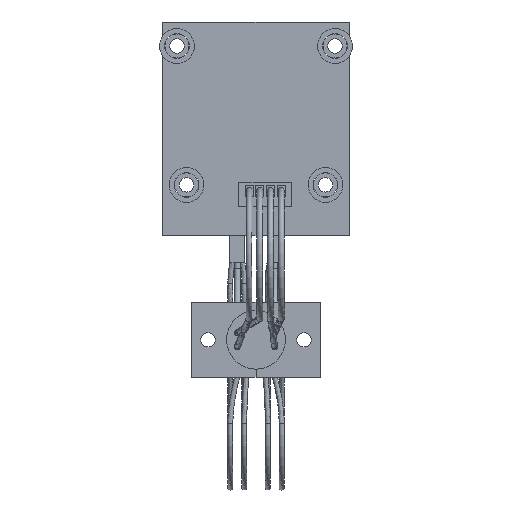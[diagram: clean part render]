
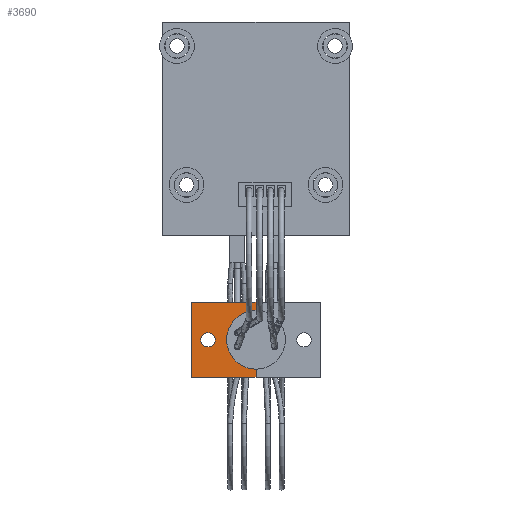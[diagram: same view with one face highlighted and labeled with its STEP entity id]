
A CAD part, top view. The second image highlights one B-rep face of the part: STEP entity #3690.
In plain terms, the highlighted planar face has unit normal (0, 0, 1).
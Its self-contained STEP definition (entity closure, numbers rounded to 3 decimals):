
#3503 = VERTEX_POINT('',#3504);
#3504 = CARTESIAN_POINT('',(-12.,-49.,3.2));
#3511 = PLANE('',#3512);
#3512 = AXIS2_PLACEMENT_3D('',#3513,#3514,#3515);
#3513 = CARTESIAN_POINT('',(-12.,-49.,-2.8));
#3514 = DIRECTION('',(1.,0.,0.));
#3515 = DIRECTION('',(0.,0.,1.));
#3523 = PLANE('',#3524);
#3524 = AXIS2_PLACEMENT_3D('',#3525,#3526,#3527);
#3525 = CARTESIAN_POINT('',(-12.,-49.,-2.8));
#3526 = DIRECTION('',(0.,1.,0.));
#3527 = DIRECTION('',(0.,0.,1.));
#3564 = VERTEX_POINT('',#3565);
#3565 = CARTESIAN_POINT('',(-12.,-35.,3.2));
#3579 = PLANE('',#3580);
#3580 = AXIS2_PLACEMENT_3D('',#3581,#3582,#3583);
#3581 = CARTESIAN_POINT('',(-12.,-35.,-2.8));
#3582 = DIRECTION('',(0.,1.,0.));
#3583 = DIRECTION('',(0.,0.,1.));
#3591 = EDGE_CURVE('',#3503,#3564,#3592,.T.);
#3592 = SURFACE_CURVE('',#3593,(#3597,#3604),.PCURVE_S1.);
#3593 = LINE('',#3594,#3595);
#3594 = CARTESIAN_POINT('',(-12.,-49.,3.2));
#3595 = VECTOR('',#3596,1.);
#3596 = DIRECTION('',(0.,1.,0.));
#3597 = PCURVE('',#3511,#3598);
#3598 = DEFINITIONAL_REPRESENTATION('',(#3599),#3603);
#3599 = LINE('',#3600,#3601);
#3600 = CARTESIAN_POINT('',(6.,0.));
#3601 = VECTOR('',#3602,1.);
#3602 = DIRECTION('',(0.,-1.));
#3603 = ( GEOMETRIC_REPRESENTATION_CONTEXT(2) 
PARAMETRIC_REPRESENTATION_CONTEXT() REPRESENTATION_CONTEXT('2D SPACE',''
  ) );
#3604 = PCURVE('',#3605,#3610);
#3605 = PLANE('',#3606);
#3606 = AXIS2_PLACEMENT_3D('',#3607,#3608,#3609);
#3607 = CARTESIAN_POINT('',(-12.,-49.,3.2));
#3608 = DIRECTION('',(0.,0.,1.));
#3609 = DIRECTION('',(1.,0.,0.));
#3610 = DEFINITIONAL_REPRESENTATION('',(#3611),#3615);
#3611 = LINE('',#3612,#3613);
#3612 = CARTESIAN_POINT('',(0.,0.));
#3613 = VECTOR('',#3614,1.);
#3614 = DIRECTION('',(0.,1.));
#3615 = ( GEOMETRIC_REPRESENTATION_CONTEXT(2) 
PARAMETRIC_REPRESENTATION_CONTEXT() REPRESENTATION_CONTEXT('2D SPACE',''
  ) );
#3644 = EDGE_CURVE('',#3503,#3645,#3647,.T.);
#3645 = VERTEX_POINT('',#3646);
#3646 = CARTESIAN_POINT('',(0.,-49.,3.2));
#3647 = SURFACE_CURVE('',#3648,(#3652,#3659),.PCURVE_S1.);
#3648 = LINE('',#3649,#3650);
#3649 = CARTESIAN_POINT('',(-12.,-49.,3.2));
#3650 = VECTOR('',#3651,1.);
#3651 = DIRECTION('',(1.,0.,0.));
#3652 = PCURVE('',#3523,#3653);
#3653 = DEFINITIONAL_REPRESENTATION('',(#3654),#3658);
#3654 = LINE('',#3655,#3656);
#3655 = CARTESIAN_POINT('',(6.,0.));
#3656 = VECTOR('',#3657,1.);
#3657 = DIRECTION('',(0.,1.));
#3658 = ( GEOMETRIC_REPRESENTATION_CONTEXT(2) 
PARAMETRIC_REPRESENTATION_CONTEXT() REPRESENTATION_CONTEXT('2D SPACE',''
  ) );
#3659 = PCURVE('',#3605,#3660);
#3660 = DEFINITIONAL_REPRESENTATION('',(#3661),#3665);
#3661 = LINE('',#3662,#3663);
#3662 = CARTESIAN_POINT('',(0.,0.));
#3663 = VECTOR('',#3664,1.);
#3664 = DIRECTION('',(1.,0.));
#3665 = ( GEOMETRIC_REPRESENTATION_CONTEXT(2) 
PARAMETRIC_REPRESENTATION_CONTEXT() REPRESENTATION_CONTEXT('2D SPACE',''
  ) );
#3680 = PLANE('',#3681);
#3681 = AXIS2_PLACEMENT_3D('',#3682,#3683,#3684);
#3682 = CARTESIAN_POINT('',(0.,-50.,-3.8));
#3683 = DIRECTION('',(1.,0.,0.));
#3684 = DIRECTION('',(0.,0.,1.));
#3690 = ADVANCED_FACE('',(#3691,#3796),#3605,.T.);
#3691 = FACE_BOUND('',#3692,.T.);
#3692 = EDGE_LOOP('',(#3693,#3716,#3717,#3718,#3739,#3772));
#3693 = ORIENTED_EDGE('',*,*,#3694,.F.);
#3694 = EDGE_CURVE('',#3564,#3695,#3697,.T.);
#3695 = VERTEX_POINT('',#3696);
#3696 = CARTESIAN_POINT('',(0.,-35.,3.2));
#3697 = SURFACE_CURVE('',#3698,(#3702,#3709),.PCURVE_S1.);
#3698 = LINE('',#3699,#3700);
#3699 = CARTESIAN_POINT('',(-12.,-35.,3.2));
#3700 = VECTOR('',#3701,1.);
#3701 = DIRECTION('',(1.,0.,0.));
#3702 = PCURVE('',#3605,#3703);
#3703 = DEFINITIONAL_REPRESENTATION('',(#3704),#3708);
#3704 = LINE('',#3705,#3706);
#3705 = CARTESIAN_POINT('',(0.,14.));
#3706 = VECTOR('',#3707,1.);
#3707 = DIRECTION('',(1.,0.));
#3708 = ( GEOMETRIC_REPRESENTATION_CONTEXT(2) 
PARAMETRIC_REPRESENTATION_CONTEXT() REPRESENTATION_CONTEXT('2D SPACE',''
  ) );
#3709 = PCURVE('',#3579,#3710);
#3710 = DEFINITIONAL_REPRESENTATION('',(#3711),#3715);
#3711 = LINE('',#3712,#3713);
#3712 = CARTESIAN_POINT('',(6.,0.));
#3713 = VECTOR('',#3714,1.);
#3714 = DIRECTION('',(0.,1.));
#3715 = ( GEOMETRIC_REPRESENTATION_CONTEXT(2) 
PARAMETRIC_REPRESENTATION_CONTEXT() REPRESENTATION_CONTEXT('2D SPACE',''
  ) );
#3716 = ORIENTED_EDGE('',*,*,#3591,.F.);
#3717 = ORIENTED_EDGE('',*,*,#3644,.T.);
#3718 = ORIENTED_EDGE('',*,*,#3719,.T.);
#3719 = EDGE_CURVE('',#3645,#3720,#3722,.T.);
#3720 = VERTEX_POINT('',#3721);
#3721 = CARTESIAN_POINT('',(0.,-47.5,3.2));
#3722 = SURFACE_CURVE('',#3723,(#3727,#3733),.PCURVE_S1.);
#3723 = LINE('',#3724,#3725);
#3724 = CARTESIAN_POINT('',(0.,-49.5,3.2));
#3725 = VECTOR('',#3726,1.);
#3726 = DIRECTION('',(0.,1.,0.));
#3727 = PCURVE('',#3605,#3728);
#3728 = DEFINITIONAL_REPRESENTATION('',(#3729),#3732);
#3729 = B_SPLINE_CURVE_WITH_KNOTS('',1,(#3730,#3731),.UNSPECIFIED.,.F.,
  .F.,(2,2),(0.5,14.5),.PIECEWISE_BEZIER_KNOTS.);
#3730 = CARTESIAN_POINT('',(12.,0.));
#3731 = CARTESIAN_POINT('',(12.,14.));
#3732 = ( GEOMETRIC_REPRESENTATION_CONTEXT(2) 
PARAMETRIC_REPRESENTATION_CONTEXT() REPRESENTATION_CONTEXT('2D SPACE',''
  ) );
#3733 = PCURVE('',#3680,#3734);
#3734 = DEFINITIONAL_REPRESENTATION('',(#3735),#3738);
#3735 = B_SPLINE_CURVE_WITH_KNOTS('',1,(#3736,#3737),.UNSPECIFIED.,.F.,
  .F.,(2,2),(0.5,14.5),.PIECEWISE_BEZIER_KNOTS.);
#3736 = CARTESIAN_POINT('',(7.,-1.));
#3737 = CARTESIAN_POINT('',(7.,-15.));
#3738 = ( GEOMETRIC_REPRESENTATION_CONTEXT(2) 
PARAMETRIC_REPRESENTATION_CONTEXT() REPRESENTATION_CONTEXT('2D SPACE',''
  ) );
#3739 = ORIENTED_EDGE('',*,*,#3740,.T.);
#3740 = EDGE_CURVE('',#3720,#3741,#3743,.T.);
#3741 = VERTEX_POINT('',#3742);
#3742 = CARTESIAN_POINT('',(0.,-36.5,3.2));
#3743 = SURFACE_CURVE('',#3744,(#3749,#3760),.PCURVE_S1.);
#3744 = CIRCLE('',#3745,5.5);
#3745 = AXIS2_PLACEMENT_3D('',#3746,#3747,#3748);
#3746 = CARTESIAN_POINT('',(0.,-42.,3.2));
#3747 = DIRECTION('',(0.,0.,-1.));
#3748 = DIRECTION('',(1.,0.,0.));
#3749 = PCURVE('',#3605,#3750);
#3750 = DEFINITIONAL_REPRESENTATION('',(#3751),#3759);
#3751 = ( BOUNDED_CURVE() B_SPLINE_CURVE(2,(#3752,#3753,#3754,#3755,
#3756,#3757,#3758),.UNSPECIFIED.,.T.,.F.) B_SPLINE_CURVE_WITH_KNOTS((1,2
    ,2,2,2,1),(-2.094,0.,2.094,4.189,
6.283,8.378),.UNSPECIFIED.) CURVE() 
GEOMETRIC_REPRESENTATION_ITEM() RATIONAL_B_SPLINE_CURVE((1.,0.5,1.,0.5,
1.,0.5,1.)) REPRESENTATION_ITEM('') );
#3752 = CARTESIAN_POINT('',(17.5,7.));
#3753 = CARTESIAN_POINT('',(17.5,-2.526));
#3754 = CARTESIAN_POINT('',(9.25,2.237));
#3755 = CARTESIAN_POINT('',(1.,7.));
#3756 = CARTESIAN_POINT('',(9.25,11.763));
#3757 = CARTESIAN_POINT('',(17.5,16.526));
#3758 = CARTESIAN_POINT('',(17.5,7.));
#3759 = ( GEOMETRIC_REPRESENTATION_CONTEXT(2) 
PARAMETRIC_REPRESENTATION_CONTEXT() REPRESENTATION_CONTEXT('2D SPACE',''
  ) );
#3760 = PCURVE('',#3761,#3766);
#3761 = CYLINDRICAL_SURFACE('',#3762,5.5);
#3762 = AXIS2_PLACEMENT_3D('',#3763,#3764,#3765);
#3763 = CARTESIAN_POINT('',(0.,-42.,-2.9));
#3764 = DIRECTION('',(-0.,-0.,-1.));
#3765 = DIRECTION('',(1.,0.,0.));
#3766 = DEFINITIONAL_REPRESENTATION('',(#3767),#3771);
#3767 = LINE('',#3768,#3769);
#3768 = CARTESIAN_POINT('',(-6.283,-6.1));
#3769 = VECTOR('',#3770,1.);
#3770 = DIRECTION('',(1.,-0.));
#3771 = ( GEOMETRIC_REPRESENTATION_CONTEXT(2) 
PARAMETRIC_REPRESENTATION_CONTEXT() REPRESENTATION_CONTEXT('2D SPACE',''
  ) );
#3772 = ORIENTED_EDGE('',*,*,#3773,.T.);
#3773 = EDGE_CURVE('',#3741,#3695,#3774,.T.);
#3774 = SURFACE_CURVE('',#3775,(#3779,#3785),.PCURVE_S1.);
#3775 = LINE('',#3776,#3777);
#3776 = CARTESIAN_POINT('',(0.,-49.5,3.2));
#3777 = VECTOR('',#3778,1.);
#3778 = DIRECTION('',(0.,1.,0.));
#3779 = PCURVE('',#3605,#3780);
#3780 = DEFINITIONAL_REPRESENTATION('',(#3781),#3784);
#3781 = B_SPLINE_CURVE_WITH_KNOTS('',1,(#3782,#3783),.UNSPECIFIED.,.F.,
  .F.,(2,2),(0.5,14.5),.PIECEWISE_BEZIER_KNOTS.);
#3782 = CARTESIAN_POINT('',(12.,0.));
#3783 = CARTESIAN_POINT('',(12.,14.));
#3784 = ( GEOMETRIC_REPRESENTATION_CONTEXT(2) 
PARAMETRIC_REPRESENTATION_CONTEXT() REPRESENTATION_CONTEXT('2D SPACE',''
  ) );
#3785 = PCURVE('',#3786,#3791);
#3786 = PLANE('',#3787);
#3787 = AXIS2_PLACEMENT_3D('',#3788,#3789,#3790);
#3788 = CARTESIAN_POINT('',(0.,-50.,-3.8));
#3789 = DIRECTION('',(1.,0.,0.));
#3790 = DIRECTION('',(0.,0.,1.));
#3791 = DEFINITIONAL_REPRESENTATION('',(#3792),#3795);
#3792 = B_SPLINE_CURVE_WITH_KNOTS('',1,(#3793,#3794),.UNSPECIFIED.,.F.,
  .F.,(2,2),(0.5,14.5),.PIECEWISE_BEZIER_KNOTS.);
#3793 = CARTESIAN_POINT('',(7.,-1.));
#3794 = CARTESIAN_POINT('',(7.,-15.));
#3795 = ( GEOMETRIC_REPRESENTATION_CONTEXT(2) 
PARAMETRIC_REPRESENTATION_CONTEXT() REPRESENTATION_CONTEXT('2D SPACE',''
  ) );
#3796 = FACE_BOUND('',#3797,.T.);
#3797 = EDGE_LOOP('',(#3798));
#3798 = ORIENTED_EDGE('',*,*,#3799,.T.);
#3799 = EDGE_CURVE('',#3800,#3800,#3802,.T.);
#3800 = VERTEX_POINT('',#3801);
#3801 = CARTESIAN_POINT('',(-7.65,-42.,3.2));
#3802 = SURFACE_CURVE('',#3803,(#3808,#3819),.PCURVE_S1.);
#3803 = CIRCLE('',#3804,1.35);
#3804 = AXIS2_PLACEMENT_3D('',#3805,#3806,#3807);
#3805 = CARTESIAN_POINT('',(-9.,-42.,3.2));
#3806 = DIRECTION('',(0.,0.,-1.));
#3807 = DIRECTION('',(1.,0.,0.));
#3808 = PCURVE('',#3605,#3809);
#3809 = DEFINITIONAL_REPRESENTATION('',(#3810),#3818);
#3810 = ( BOUNDED_CURVE() B_SPLINE_CURVE(2,(#3811,#3812,#3813,#3814,
#3815,#3816,#3817),.UNSPECIFIED.,.T.,.F.) B_SPLINE_CURVE_WITH_KNOTS((1,2
    ,2,2,2,1),(-2.094,0.,2.094,4.189,
6.283,8.378),.UNSPECIFIED.) CURVE() 
GEOMETRIC_REPRESENTATION_ITEM() RATIONAL_B_SPLINE_CURVE((1.,0.5,1.,0.5,
1.,0.5,1.)) REPRESENTATION_ITEM('') );
#3811 = CARTESIAN_POINT('',(4.35,7.));
#3812 = CARTESIAN_POINT('',(4.35,4.662));
#3813 = CARTESIAN_POINT('',(2.325,5.831));
#3814 = CARTESIAN_POINT('',(0.3,7.));
#3815 = CARTESIAN_POINT('',(2.325,8.169));
#3816 = CARTESIAN_POINT('',(4.35,9.338));
#3817 = CARTESIAN_POINT('',(4.35,7.));
#3818 = ( GEOMETRIC_REPRESENTATION_CONTEXT(2) 
PARAMETRIC_REPRESENTATION_CONTEXT() REPRESENTATION_CONTEXT('2D SPACE',''
  ) );
#3819 = PCURVE('',#3820,#3825);
#3820 = CYLINDRICAL_SURFACE('',#3821,1.35);
#3821 = AXIS2_PLACEMENT_3D('',#3822,#3823,#3824);
#3822 = CARTESIAN_POINT('',(-9.,-42.,-2.9));
#3823 = DIRECTION('',(-0.,-0.,-1.));
#3824 = DIRECTION('',(1.,0.,0.));
#3825 = DEFINITIONAL_REPRESENTATION('',(#3826),#3830);
#3826 = LINE('',#3827,#3828);
#3827 = CARTESIAN_POINT('',(-6.283,-6.1));
#3828 = VECTOR('',#3829,1.);
#3829 = DIRECTION('',(1.,-0.));
#3830 = ( GEOMETRIC_REPRESENTATION_CONTEXT(2) 
PARAMETRIC_REPRESENTATION_CONTEXT() REPRESENTATION_CONTEXT('2D SPACE',''
  ) );
